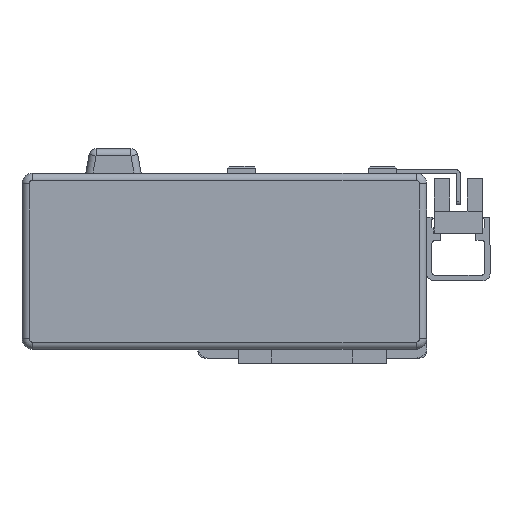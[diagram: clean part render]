
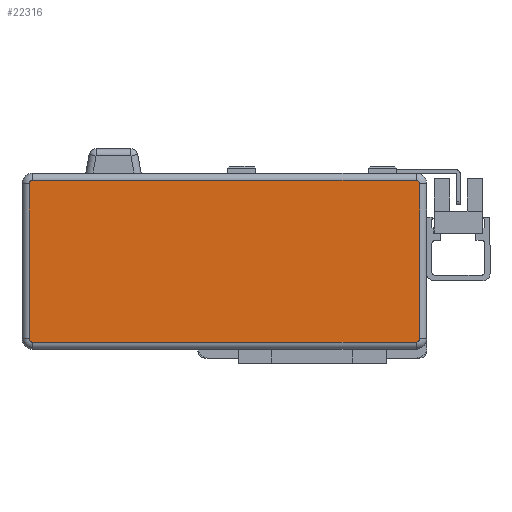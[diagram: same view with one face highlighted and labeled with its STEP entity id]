
A CAD part, left-side view. The second image highlights one B-rep face of the part: STEP entity #22316.
In plain terms, the highlighted planar face has unit normal (-1, 0, 0) as drawn and (0, 0, 1) by its records, which use the part's own axes.
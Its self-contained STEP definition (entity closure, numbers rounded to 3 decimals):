
#474 = VERTEX_POINT ( 'NONE', #10239 ) ;
#2742 = VERTEX_POINT ( 'NONE', #8359 ) ;
#5611 = CARTESIAN_POINT ( 'NONE',  ( 54.5, -23., 40. ) ) ;
#6309 = CARTESIAN_POINT ( 'NONE',  ( 0., 23., 40. ) ) ;
#7480 = VERTEX_POINT ( 'NONE', #16080 ) ;
#7766 = CARTESIAN_POINT ( 'NONE',  ( 55.5, 22., 40. ) ) ;
#8359 = CARTESIAN_POINT ( 'NONE',  ( -55.5, 22., 40. ) ) ;
#10239 = CARTESIAN_POINT ( 'NONE',  ( 55.5, -22., 40. ) ) ;
#11474 = VERTEX_POINT ( 'NONE', #5611 ) ;
#13109 = VERTEX_POINT ( 'NONE', #7766 ) ;
#13676 = VERTEX_POINT ( 'NONE', #15399 ) ;
#14228 = VERTEX_POINT ( 'NONE', #21048 ) ;
#14711 = CARTESIAN_POINT ( 'NONE',  ( 54.5, 22., 40. ) ) ;
#14828 = CARTESIAN_POINT ( 'NONE',  ( -54.5, 22., 40. ) ) ;
#15030 = FACE_OUTER_BOUND ( 'NONE', #16114, .T. ) ;
#15102 = DIRECTION ( 'NONE',  ( -1., 0., 0. ) ) ;
#15197 = DIRECTION ( 'NONE',  ( -1., 0., 0. ) ) ;
#15247 = DIRECTION ( 'NONE',  ( -1., 0., 0. ) ) ;
#15399 = CARTESIAN_POINT ( 'NONE',  ( -54.5, 23., 40. ) ) ;
#15795 = DIRECTION ( 'NONE',  ( 0., 0., 1. ) ) ;
#15824 = DIRECTION ( 'NONE',  ( 0., 0., 1. ) ) ;
#16080 = CARTESIAN_POINT ( 'NONE',  ( -55.5, -22., 40. ) ) ;
#16114 = EDGE_LOOP ( 'NONE', ( #17370, #21888, #21340, #21143, #20587, #23397, #22918, #22638 ) ) ;
#16848 = CARTESIAN_POINT ( 'NONE',  ( 55.5, 0., 40. ) ) ;
#16853 = DIRECTION ( 'NONE',  ( 0., -1., 0. ) ) ;
#17058 = CARTESIAN_POINT ( 'NONE',  ( 54.5, -22., 40. ) ) ;
#17233 = CARTESIAN_POINT ( 'NONE',  ( -55.5, 0., 40. ) ) ;
#17370 = ORIENTED_EDGE ( 'NONE', *, *, #25657, .T. ) ;
#18004 = DIRECTION ( 'NONE',  ( -1., 0., 0. ) ) ;
#18297 = DIRECTION ( 'NONE',  ( 0., 0., 1. ) ) ;
#18632 = DIRECTION ( 'NONE',  ( 0., 1., 0. ) ) ;
#20587 = ORIENTED_EDGE ( 'NONE', *, *, #25890, .T. ) ;
#21048 = CARTESIAN_POINT ( 'NONE',  ( 54.5, 23., 40. ) ) ;
#21143 = ORIENTED_EDGE ( 'NONE', *, *, #25842, .T. ) ;
#21340 = ORIENTED_EDGE ( 'NONE', *, *, #25764, .T. ) ;
#21593 = AXIS2_PLACEMENT_3D ( 'NONE', #23569, #23498, #23387 ) ;
#21888 = ORIENTED_EDGE ( 'NONE', *, *, #25730, .T. ) ;
#22316 = ADVANCED_FACE ( 'NONE', ( #15030 ), #24020, .F. ) ;
#22638 = ORIENTED_EDGE ( 'NONE', *, *, #26102, .T. ) ;
#22918 = ORIENTED_EDGE ( 'NONE', *, *, #26014, .T. ) ;
#23203 = CIRCLE ( 'NONE', #24985, 1. ) ;
#23387 = DIRECTION ( 'NONE',  ( -1., 0., 0. ) ) ;
#23397 = ORIENTED_EDGE ( 'NONE', *, *, #25892, .T. ) ;
#23498 = DIRECTION ( 'NONE',  ( 0., 0., -1. ) ) ;
#23569 = CARTESIAN_POINT ( 'NONE',  ( 0., 0., 40. ) ) ;
#23579 = LINE ( 'NONE', #17233, #23695 ) ;
#23695 = VECTOR ( 'NONE', #16853, 1000. ) ;
#23923 = VECTOR ( 'NONE', #15247, 1000. ) ;
#23947 = CIRCLE ( 'NONE', #25096, 1. ) ;
#24020 = PLANE ( 'NONE',  #21593 ) ;
#24060 = LINE ( 'NONE', #6309, #23923 ) ;
#24191 = CIRCLE ( 'NONE', #25146, 1. ) ;
#24307 = VECTOR ( 'NONE', #18632, 1000. ) ;
#24325 = DIRECTION ( 'NONE',  ( -1., 0., 0. ) ) ;
#24524 = LINE ( 'NONE', #16848, #24307 ) ;
#24573 = CIRCLE ( 'NONE', #25225, 1. ) ;
#24744 = VECTOR ( 'NONE', #26572, 1000. ) ;
#24771 = LINE ( 'NONE', #26482, #24744 ) ;
#24970 = DIRECTION ( 'NONE',  ( 0., 0., 1. ) ) ;
#24985 = AXIS2_PLACEMENT_3D ( 'NONE', #25058, #24970, #24325 ) ;
#25058 = CARTESIAN_POINT ( 'NONE',  ( -54.5, -22., 40. ) ) ;
#25096 = AXIS2_PLACEMENT_3D ( 'NONE', #14828, #15824, #15102 ) ;
#25146 = AXIS2_PLACEMENT_3D ( 'NONE', #14711, #15795, #15197 ) ;
#25225 = AXIS2_PLACEMENT_3D ( 'NONE', #17058, #18297, #18004 ) ;
#25558 = VERTEX_POINT ( 'NONE', #25563 ) ;
#25563 = CARTESIAN_POINT ( 'NONE',  ( -54.5, -23., 40. ) ) ;
#25657 = EDGE_CURVE ( 'NONE', #25558, #11474, #24771, .T. ) ;
#25730 = EDGE_CURVE ( 'NONE', #11474, #474, #24573, .T. ) ;
#25764 = EDGE_CURVE ( 'NONE', #474, #13109, #24524, .T. ) ;
#25842 = EDGE_CURVE ( 'NONE', #13109, #14228, #24191, .T. ) ;
#25890 = EDGE_CURVE ( 'NONE', #14228, #13676, #24060, .T. ) ;
#25892 = EDGE_CURVE ( 'NONE', #13676, #2742, #23947, .T. ) ;
#26014 = EDGE_CURVE ( 'NONE', #2742, #7480, #23579, .T. ) ;
#26102 = EDGE_CURVE ( 'NONE', #7480, #25558, #23203, .T. ) ;
#26482 = CARTESIAN_POINT ( 'NONE',  ( 0., -23., 40. ) ) ;
#26572 = DIRECTION ( 'NONE',  ( 1., 0., 0. ) ) ;
